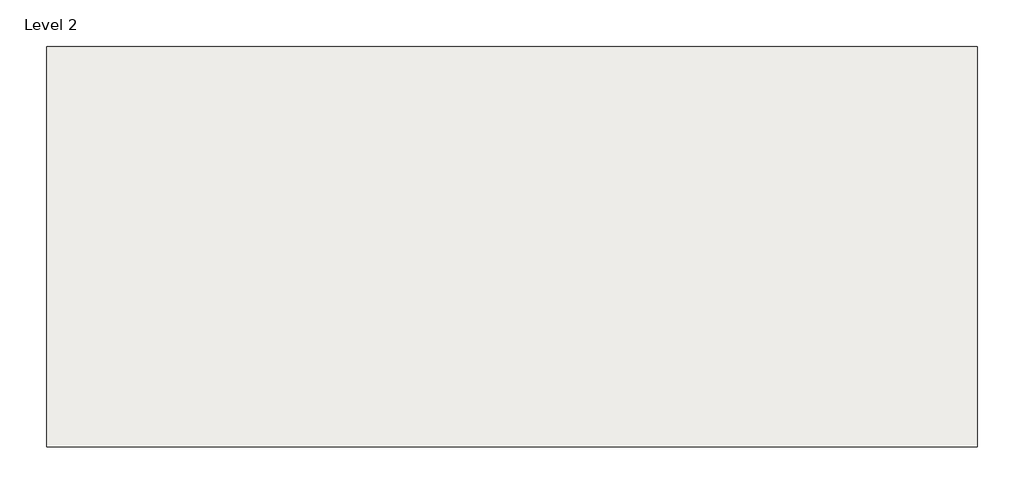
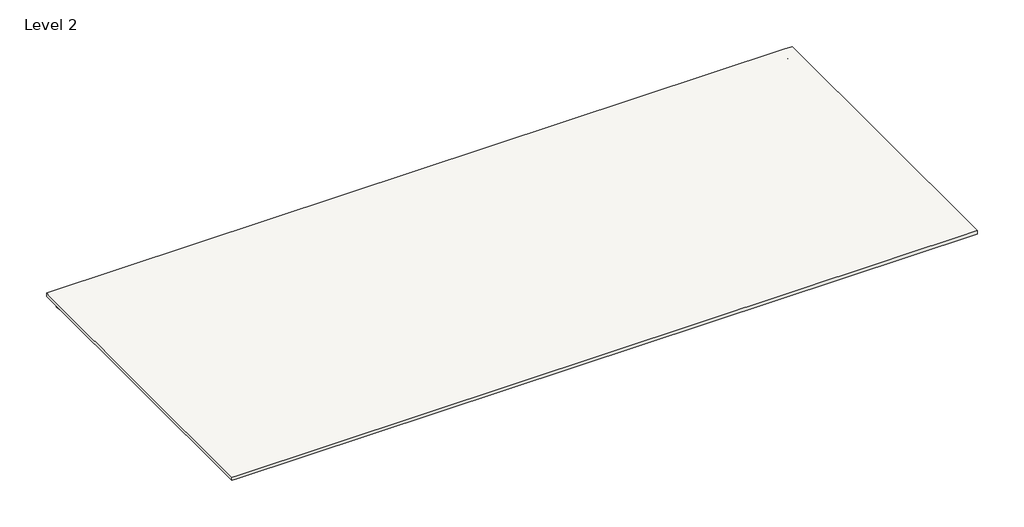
# One storey: 1 beam, 1 slab.
"""IFC4 building model written with IfcOpenShell, lengths in millimetres."""

from ifc_helpers import new_model, si_unit, origin, place, context, project, spatial, faceted_brep, transform, mapped, element, save
from components import w_wide_flange_w12x26_b5ab591a

model = new_model("IFC4")

# Units and contexts
model_context = context("Model", 3, world=origin())
ifc_project = project(units=[si_unit("LENGTHUNIT", "METRE", prefix="MILLI")], contexts=[model_context])

# Site, building, storey
site = spatial("IfcSite", under=ifc_project)
building = spatial("IfcBuilding", under=site)
storey = spatial("IfcBuildingStorey", under=building, Name="Level 2", Elevation=3048.0)

# Beam
placement = place(None, origin())
w_wide_flange_w12x26_shape = w_wide_flange_w12x26_b5ab591a(model_context)
element("IfcBeam", 1, ObjectType="W-Wide Flange : W12X26", at=placement, inside=storey, context=model_context, shape_type="MappedRepresentation", body=[
    mapped(w_wide_flange_w12x26_shape, transform((-2431.6336494, 8051.3134644, 2702.321875), x_axis=(1.0, 0.0, 0.0), y_axis=(0.0, 1.0, 0.0), z_axis=(0.0, 0.0, 1.0))),
])

# Slab
element("IfcSlab", 2, ObjectType="3\" LW Concrete on 2\" Metal Deck", at=placement, inside=storey, context=model_context, shape_type="Brep", body=[
    faceted_brep([(10963.6913506, 8305.3134644, 2921.0), (10963.6913506, -3054.8365356, 2921.0), (10963.6913506, -3223.1115356, 2921.0), (-15636.4586494, -3223.1115356, 2921.0), (-15804.7336494, -3223.1115356, 2921.0), (-15804.7336494, 8137.0384644, 2921.0), (-15804.7336494, 8305.3134644, 2921.0), (10712.8663506, 8305.3134644, 2921.0), (10963.6913506, 8305.3134644, 3048.0), (10712.8663506, 8305.3134644, 3048.0), (-15804.7336494, 8305.3134644, 3048.0), (-15804.7336494, 8137.0384644, 3048.0), (-15804.7336494, -3223.1115356, 3048.0), (-15636.4586494, -3223.1115356, 3048.0), (10963.6913506, -3223.1115356, 3048.0), (10963.6913506, -3054.8365356, 3048.0)], [[[0, 1, 2, 3, 4, 5, 6, 7]], [[8, 9, 10, 11, 12, 13, 14, 15]], [[2, 1, 0, 8, 15, 14]], [[4, 3, 2, 14, 13, 12]], [[6, 5, 4, 12, 11, 10]], [[0, 7, 6, 10, 9, 8]]]),
])

save(model, "model.ifc")
